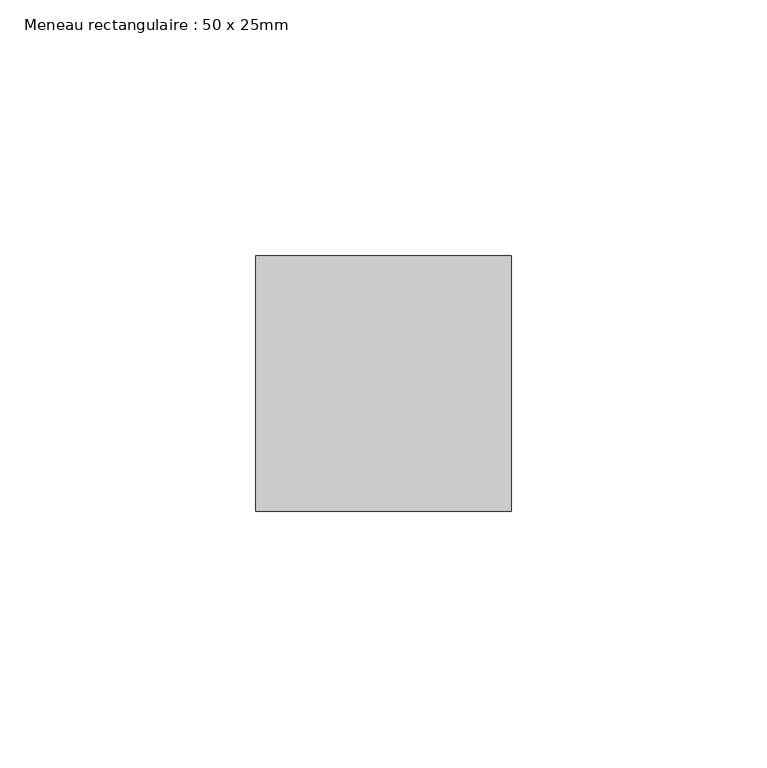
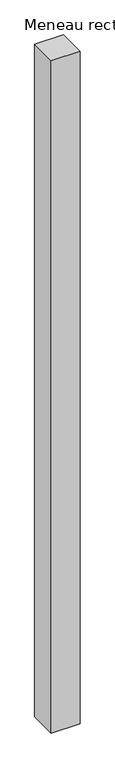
"""IFC4 building model written with IfcOpenShell, lengths in millimetres: member geometry, Meneau rectangulaire : 50 x 25mm."""

from ifc_helpers import new_model, si_unit, frame, origin, place, context, project, spatial, polyline, outline, extrude, source, transform, mapped, element, save


def meneau_rectangulaire_50_x_25mm_0a62b1a1(model_context):
    return source(origin(), model_context, "Body", "SweptSolid", [
        extrude(outline(polyline([(25.0, 0.0), (25.0, -50.0), (-25.0, -50.0), (-25.0, 0.0), (25.0, 0.0)])), frame((0.0, 0.0, -1237.0), z_axis=(0.0, 0.0, 1.0), x_axis=(1.0, 0.0, 0.0)), (0.0, 0.0, 1.0), 1237.0),
    ])


if __name__ == "__main__":
    model = new_model("IFC4")
    model_context = context("Model", 3, world=origin())
    ifc_project = project(units=[si_unit("LENGTHUNIT", "METRE", prefix="MILLI")], contexts=[model_context])
    site = spatial("IfcSite", under=ifc_project)
    building = spatial("IfcBuilding", under=site)
    placement = place(None, origin())
    meneau_rectangulaire_50_x_25mm_shape = meneau_rectangulaire_50_x_25mm_0a62b1a1(model_context)
    element("IfcMember", 1, ObjectType="Meneau rectangulaire : 50 x 25mm", at=placement, inside=building, context=model_context, shape_type="MappedRepresentation", body=[
        mapped(meneau_rectangulaire_50_x_25mm_shape, transform((0.0, 0.0, 0.0), x_axis=(1.0, 0.0, 0.0), y_axis=(0.0, 1.0, 0.0), z_axis=(0.0, 0.0, 1.0))),
    ])
    save(model, "model.ifc")
